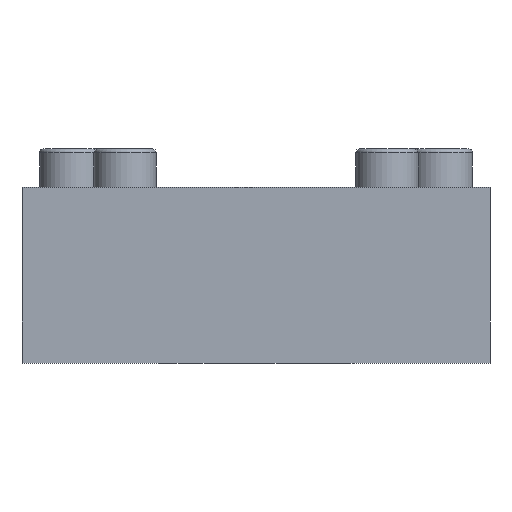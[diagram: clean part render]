
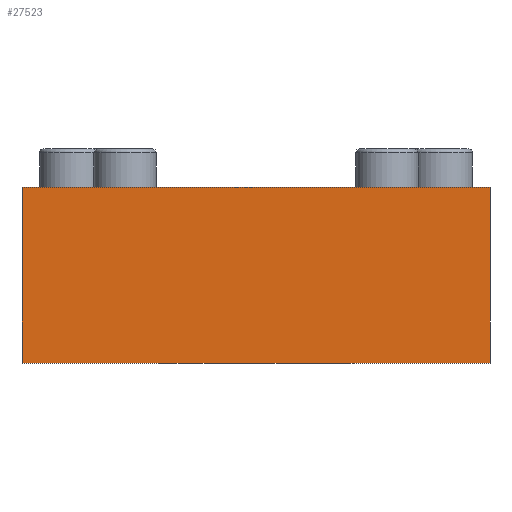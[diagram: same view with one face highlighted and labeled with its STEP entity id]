
A CAD part, front view. The second image highlights one B-rep face of the part: STEP entity #27523.
In plain terms, the highlighted planar face has unit normal (0, -1, 0).
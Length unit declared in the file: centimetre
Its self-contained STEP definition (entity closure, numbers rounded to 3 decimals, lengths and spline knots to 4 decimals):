
#1275=LINE('',#33658,#4099);
#4091=LINE('',#46303,#6915);
#4096=LINE('',#46312,#6920);
#4097=LINE('',#46314,#6921);
#4099=VECTOR('',#28662,12.);
#6915=VECTOR('',#33602,4.506);
#6920=VECTOR('',#33611,4.506);
#6921=VECTOR('',#33614,12.);
#7888=PLANE('',#28613);
#10751=FACE_OUTER_BOUND('',#12316,.T.);
#12316=EDGE_LOOP('',(#26093,#26094,#26095,#26096));
#12396=VERTEX_POINT('',#33655);
#12397=VERTEX_POINT('',#33657);
#14887=VERTEX_POINT('',#46300);
#14890=VERTEX_POINT('',#46310);
#14906=EDGE_CURVE('',#12396,#12397,#1275,.T.);
#18622=EDGE_CURVE('',#14887,#12396,#4091,.T.);
#18627=EDGE_CURVE('',#14890,#12397,#4096,.T.);
#18628=EDGE_CURVE('',#14890,#14887,#4097,.T.);
#26093=ORIENTED_EDGE('',*,*,#18628,.F.);
#26094=ORIENTED_EDGE('',*,*,#18627,.T.);
#26095=ORIENTED_EDGE('',*,*,#14906,.F.);
#26096=ORIENTED_EDGE('',*,*,#18622,.F.);
#27523=ADVANCED_FACE('',(#10751),#7888,.T.);
#28613=AXIS2_PLACEMENT_3D('',#46313,#33612,#33613);
#28662=DIRECTION('',(1.,0.,0.));
#33602=DIRECTION('',(0.,0.,1.));
#33611=DIRECTION('',(0.,0.,1.));
#33612=DIRECTION('center_axis',(0.,-1.,0.));
#33613=DIRECTION('ref_axis',(1.,0.,0.));
#33614=DIRECTION('',(-1.,0.,0.));
#33655=CARTESIAN_POINT('',(-6.,-31.,4.506));
#33657=CARTESIAN_POINT('',(6.,-31.,4.506));
#33658=CARTESIAN_POINT('',(-6.,-31.,4.506));
#46300=CARTESIAN_POINT('',(-6.,-31.,0.));
#46303=CARTESIAN_POINT('',(-6.,-31.,0.));
#46310=CARTESIAN_POINT('',(6.,-31.,0.));
#46312=CARTESIAN_POINT('',(6.,-31.,0.));
#46313=CARTESIAN_POINT('Origin',(-6.,-31.,0.));
#46314=CARTESIAN_POINT('',(6.,-31.,0.));
